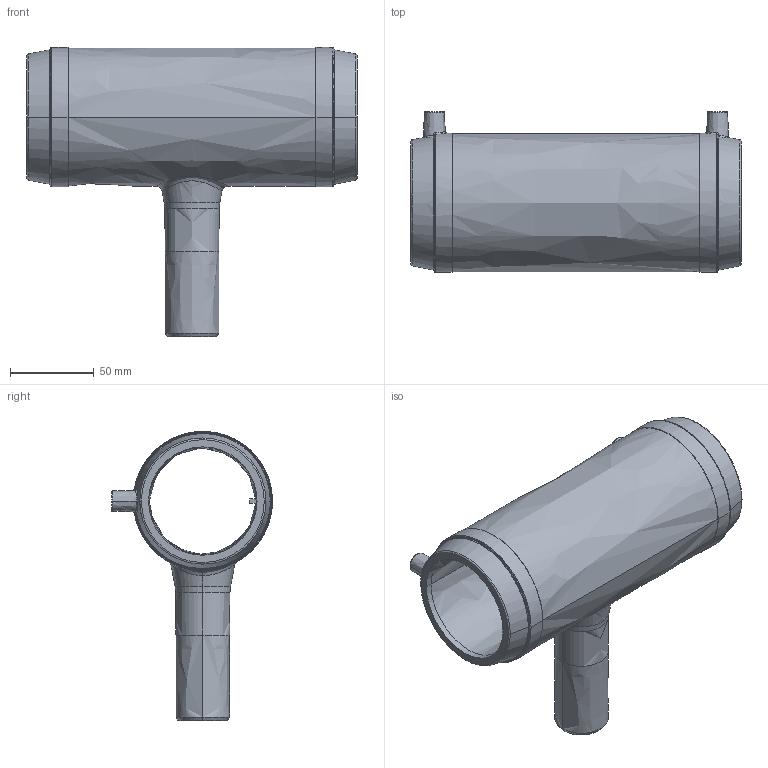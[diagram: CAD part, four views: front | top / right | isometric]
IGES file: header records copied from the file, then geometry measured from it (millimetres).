
Start section:  PTC IGES file: ta_red_d63-32_01.igs
Global section: file name: ta_red_d63-32_01.igs; native system: Pro/ENGINEER by Parametric Technology Corporation; preprocessor: 2011490; author: mtunjic; organization: Unknown; date: 20130812.130545; units: millimetre
Bounding box: 197 x 96 x 172.55 mm (x, y, z)
Surface area: 110851.8 mm2 (no closed solid volume)
Topology: 0 solids, 0 shells, 213 faces, 1050 edges, 1050 vertices
Faces by surface type: bspline 213
